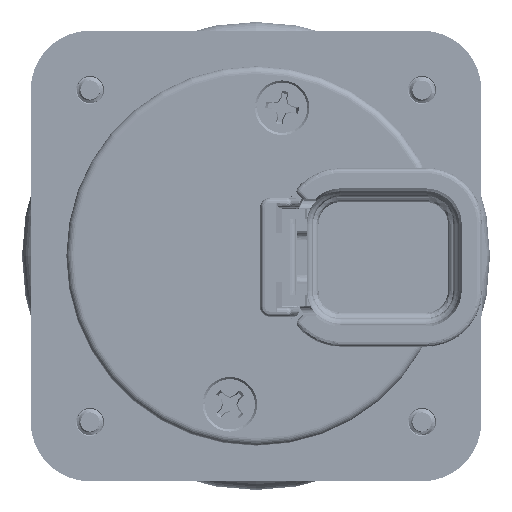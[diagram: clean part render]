
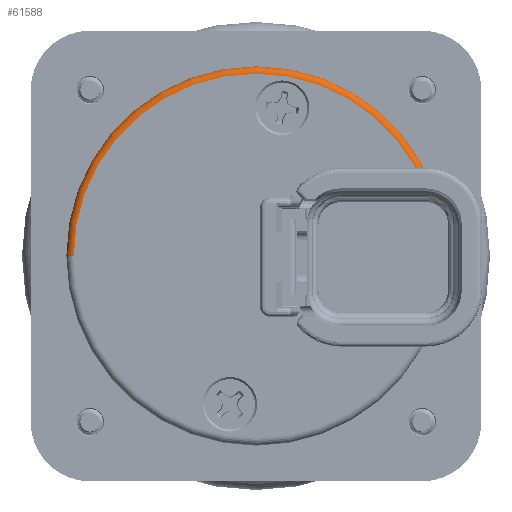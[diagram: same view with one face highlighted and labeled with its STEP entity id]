
A CAD part, front view. The second image highlights one B-rep face of the part: STEP entity #61588.
In plain terms, the highlighted toroidal (fillet/blend) face has major radius 19.526 mm and minor radius 0.794 mm.
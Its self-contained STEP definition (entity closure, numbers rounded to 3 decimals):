
#2827 = FACE_OUTER_BOUND ( 'NONE', #87662, .T. ) ;
#2850 = CARTESIAN_POINT ( 'NONE',  ( 20.32, -37.103, 0. ) ) ;
#5220 = AXIS2_PLACEMENT_3D ( 'NONE', #67822, #105183, #16734 ) ;
#13306 = CARTESIAN_POINT ( 'NONE',  ( 0., -37.103, 0. ) ) ;
#15591 = VERTEX_POINT ( 'NONE', #2850 ) ;
#16734 = DIRECTION ( 'NONE',  ( 1., 0., 0. ) ) ;
#40389 = DIRECTION ( 'NONE',  ( -1., 0., 0. ) ) ;
#46429 = CIRCLE ( 'NONE', #104358, 19.526 ) ;
#47184 = VERTEX_POINT ( 'NONE', #56877 ) ;
#53830 = AXIS2_PLACEMENT_3D ( 'NONE', #160394, #107127, #109370 ) ;
#56877 = CARTESIAN_POINT ( 'NONE',  ( 19.526, -37.897, 0. ) ) ;
#58425 = AXIS2_PLACEMENT_3D ( 'NONE', #13306, #99478, #206032 ) ;
#61588 = ADVANCED_FACE ( 'NONE', ( #2827 ), #202223, .T. ) ;
#67822 = CARTESIAN_POINT ( 'NONE',  ( 19.526, -37.103, 0. ) ) ;
#69277 = CIRCLE ( 'NONE', #58425, 20.32 ) ;
#77794 = CIRCLE ( 'NONE', #5220, 0.794 ) ;
#78002 = EDGE_CURVE ( 'NONE', #47184, #124927, #46429, .T. ) ;
#78899 = CARTESIAN_POINT ( 'NONE',  ( -19.526, -37.103, 0. ) ) ;
#87662 = EDGE_LOOP ( 'NONE', ( #100844, #117523, #112348, #113643 ) ) ;
#99478 = DIRECTION ( 'NONE',  ( 0., 1., 0. ) ) ;
#100844 = ORIENTED_EDGE ( 'NONE', *, *, #78002, .F. ) ;
#104358 = AXIS2_PLACEMENT_3D ( 'NONE', #144298, #109141, #198689 ) ;
#105183 = DIRECTION ( 'NONE',  ( 0., 0., 1. ) ) ;
#107127 = DIRECTION ( 'NONE',  ( 0., 1., 0. ) ) ;
#108951 = EDGE_CURVE ( 'NONE', #124927, #203758, #200294, .T. ) ;
#109141 = DIRECTION ( 'NONE',  ( 0., -1., 0. ) ) ;
#109370 = DIRECTION ( 'NONE',  ( -1., 0., 0. ) ) ;
#110896 = CARTESIAN_POINT ( 'NONE',  ( -20.32, -37.103, 0. ) ) ;
#112348 = ORIENTED_EDGE ( 'NONE', *, *, #136071, .F. ) ;
#113643 = ORIENTED_EDGE ( 'NONE', *, *, #108951, .F. ) ;
#117523 = ORIENTED_EDGE ( 'NONE', *, *, #146708, .T. ) ;
#124216 = AXIS2_PLACEMENT_3D ( 'NONE', #78899, #144666, #40389 ) ;
#124927 = VERTEX_POINT ( 'NONE', #174012 ) ;
#136071 = EDGE_CURVE ( 'NONE', #203758, #15591, #69277, .T. ) ;
#144298 = CARTESIAN_POINT ( 'NONE',  ( 0., -37.897, 0. ) ) ;
#144666 = DIRECTION ( 'NONE',  ( 0., 0., -1. ) ) ;
#146708 = EDGE_CURVE ( 'NONE', #47184, #15591, #77794, .T. ) ;
#160394 = CARTESIAN_POINT ( 'NONE',  ( 0., -37.103, 0. ) ) ;
#174012 = CARTESIAN_POINT ( 'NONE',  ( -19.526, -37.897, 0. ) ) ;
#198689 = DIRECTION ( 'NONE',  ( -1., 0., 0. ) ) ;
#200294 = CIRCLE ( 'NONE', #124216, 0.794 ) ;
#202223 = TOROIDAL_SURFACE ( 'NONE', #53830, 19.526, 0.794 ) ;
#203758 = VERTEX_POINT ( 'NONE', #110896 ) ;
#206032 = DIRECTION ( 'NONE',  ( -1., 0., 0. ) ) ;
